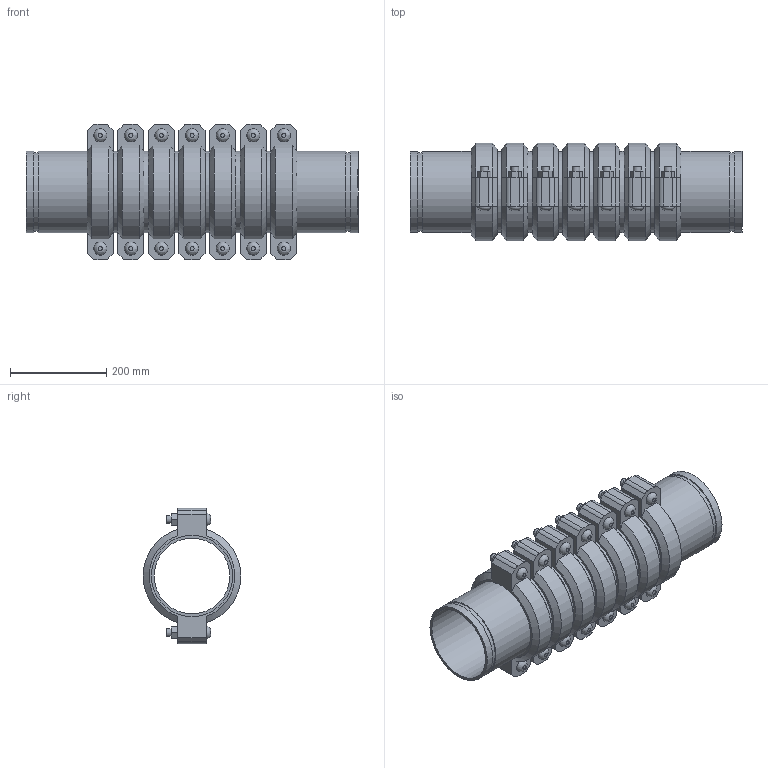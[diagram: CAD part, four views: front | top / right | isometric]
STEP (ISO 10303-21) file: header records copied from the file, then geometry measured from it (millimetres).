
FILE_DESCRIPTION(/* description */ ('VIC SS EXPANSION JOINT 7 COUPLINGS NEUTRAL STYLE 155P (OGS) (POTABLE WATER) ','CAx-IF Rec.Pracs.---Representation and Presentation of Product Manufacturing Information (PMI)---4.0---2014-10-13'),/* implementation_level */ '2;1');
FILE_NAME(/* name */ 'C:\Users\kkamble\AppData\Roaming\Autodesk\ApplicationPlugins\Victaulic.Temp\A807\Victaulic_SS_Expansion Joint_Neutral_7 Couplings_Style 155P (OGS)-Potable Water_7 Coup_Neut_6 (150).stp',/* time_stamp */ '2021-07-16T16:37:28+05:00',/* author */ ('kkamble'),/* organization */ ('Victaulic'),/* preprocessor_version */ 'ST-DEVELOPER v17.2',/* originating_system */ 'Autodesk Inventor 2019',/* authorisation */ '');
FILE_SCHEMA (('AP242_MANAGED_MODEL_BASED_3D_ENGINEERING_MIM_LF { 1 0 10303 442 1 1 4 }'));
Length unit declared in the file: inch
Products named in the file (4): 155P-06.0; Nipple-06.0; Nipple-06.0_1; 075-06.0
Assembly tree (15 placements, depth 2):
  155P-06.0
    Nipple-06.0  x2
    Nipple-06.0_1  x6
    075-06.0  x7
Bounding box: 689.1 x 202.46 x 281.18 mm (x, y, z)
Volume: 7011646.2 mm3; surface area: 1554274.1 mm2
Topology: 15 solids, 29 shells, 495 faces, 1171 edges, 822 vertices
Faces by surface type: plane 300, cylinder 153, cone 28, bspline 14
Full cylindrical faces by diameter (mm): 15.875 x28, 17.424 x14, 157.15 x8, 161.925 x7, 163.957 x16, 168.275 x38
Entity records: 2833 total; most frequent: CARTESIAN_POINT 499, DIRECTION 473, ORIENTED_EDGE 386, EDGE_CURVE 193, AXIS2_PLACEMENT_3D 190, VERTEX_POINT 138, EDGE_LOOP 107, LINE 93
